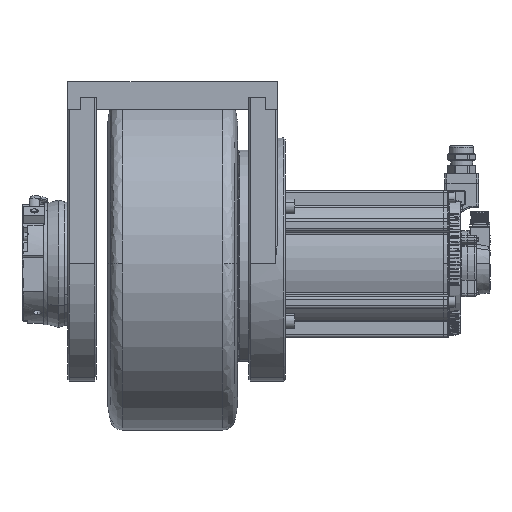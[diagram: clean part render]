
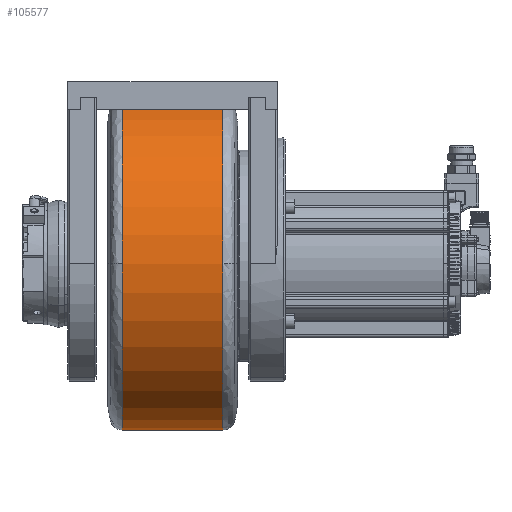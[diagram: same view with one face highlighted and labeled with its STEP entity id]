
A CAD part, front view. The second image highlights one B-rep face of the part: STEP entity #105577.
In plain terms, the highlighted cylindrical face has radius 205 mm (diameter 410 mm), a partial arc.
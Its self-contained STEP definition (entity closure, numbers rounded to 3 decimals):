
#10211 = AXIS2_PLACEMENT_3D ( 'NONE', #14149, #14150, #14158 ) ;
#14149 = CARTESIAN_POINT ( 'NONE',  ( -207.222, 2.82, 43.033 ) ) ;
#14150 = DIRECTION ( 'NONE',  ( 1., 0., 0. ) ) ;
#14158 = DIRECTION ( 'NONE',  ( 0., 0., -1. ) ) ;
#14331 = FACE_OUTER_BOUND ( 'NONE', #72782, .T. ) ;
#14336 = CYLINDRICAL_SURFACE ( 'NONE', #10211, 205. ) ;
#48480 = VERTEX_POINT ( 'NONE', #86662 ) ;
#48690 = VERTEX_POINT ( 'NONE', #88510 ) ;
#48775 = VERTEX_POINT ( 'NONE', #88654 ) ;
#48786 = VERTEX_POINT ( 'NONE', #88672 ) ;
#48854 = VERTEX_POINT ( 'NONE', #88786 ) ;
#60001 = VERTEX_POINT ( 'NONE', #90532 ) ;
#61440 = ORIENTED_EDGE ( 'NONE', *, *, #113606, .F. ) ;
#61441 = ORIENTED_EDGE ( 'NONE', *, *, #113572, .T. ) ;
#61442 = ORIENTED_EDGE ( 'NONE', *, *, #113645, .T. ) ;
#61443 = ORIENTED_EDGE ( 'NONE', *, *, #113613, .T. ) ;
#61444 = ORIENTED_EDGE ( 'NONE', *, *, #113647, .T. ) ;
#61445 = ORIENTED_EDGE ( 'NONE', *, *, #113557, .T. ) ;
#72782 = EDGE_LOOP ( 'NONE', ( #61440, #61441, #61442, #61443, #61444, #61445 ) ) ;
#86662 = CARTESIAN_POINT ( 'NONE',  ( -1.186, 2.82, 248.033 ) ) ;
#88510 = CARTESIAN_POINT ( 'NONE',  ( -125.257, 2.82, 248.033 ) ) ;
#88654 = CARTESIAN_POINT ( 'NONE',  ( -1.186, 2.82, -161.967 ) ) ;
#88672 = CARTESIAN_POINT ( 'NONE',  ( -125.257, -202.18, 43.033 ) ) ;
#88786 = CARTESIAN_POINT ( 'NONE',  ( -125.257, 2.82, -161.967 ) ) ;
#89500 = AXIS2_PLACEMENT_3D ( 'NONE', #110011, #110013, #110015 ) ;
#89514 = AXIS2_PLACEMENT_3D ( 'NONE', #110066, #110068, #110071 ) ;
#89551 = AXIS2_PLACEMENT_3D ( 'NONE', #110280, #110283, #110284 ) ;
#89553 = AXIS2_PLACEMENT_3D ( 'NONE', #110289, #110291, #110294 ) ;
#90532 = CARTESIAN_POINT ( 'NONE',  ( -1.186, -202.18, 43.033 ) ) ;
#94709 = CIRCLE ( 'NONE', #89500, 205. ) ;
#94727 = CIRCLE ( 'NONE', #89514, 205. ) ;
#94757 = LINE ( 'NONE', #110155, #94761 ) ;
#94761 = VECTOR ( 'NONE', #110142, 1000. ) ;
#94763 = LINE ( 'NONE', #110160, #94767 ) ;
#94767 = VECTOR ( 'NONE', #110162, 1000. ) ;
#94795 = CIRCLE ( 'NONE', #89551, 205. ) ;
#94797 = CIRCLE ( 'NONE', #89553, 205. ) ;
#105577 = ADVANCED_FACE ( 'NONE', ( #14331 ), #14336, .T. ) ;
#110011 = CARTESIAN_POINT ( 'NONE',  ( -1.186, 2.82, 43.033 ) ) ;
#110013 = DIRECTION ( 'NONE',  ( -1., 0., 0. ) ) ;
#110015 = DIRECTION ( 'NONE',  ( 0., 0., -1. ) ) ;
#110066 = CARTESIAN_POINT ( 'NONE',  ( -125.257, 2.82, 43.033 ) ) ;
#110068 = DIRECTION ( 'NONE',  ( 1., 0., 0. ) ) ;
#110071 = DIRECTION ( 'NONE',  ( 0., 0., -1. ) ) ;
#110142 = DIRECTION ( 'NONE',  ( 1., 0., 0. ) ) ;
#110155 = CARTESIAN_POINT ( 'NONE',  ( -207.222, 2.82, 248.033 ) ) ;
#110160 = CARTESIAN_POINT ( 'NONE',  ( -207.222, 2.82, -161.967 ) ) ;
#110162 = DIRECTION ( 'NONE',  ( 1., 0., 0. ) ) ;
#110280 = CARTESIAN_POINT ( 'NONE',  ( -125.257, 2.82, 43.033 ) ) ;
#110283 = DIRECTION ( 'NONE',  ( 1., 0., 0. ) ) ;
#110284 = DIRECTION ( 'NONE',  ( 0., 0., -1. ) ) ;
#110289 = CARTESIAN_POINT ( 'NONE',  ( -1.186, 2.82, 43.033 ) ) ;
#110291 = DIRECTION ( 'NONE',  ( -1., 0., 0. ) ) ;
#110294 = DIRECTION ( 'NONE',  ( 0., 0., -1. ) ) ;
#113557 = EDGE_CURVE ( 'NONE', #60001, #48480, #94709, .T. ) ;
#113572 = EDGE_CURVE ( 'NONE', #48690, #48786, #94727, .T. ) ;
#113606 = EDGE_CURVE ( 'NONE', #48690, #48480, #94757, .T. ) ;
#113613 = EDGE_CURVE ( 'NONE', #48854, #48775, #94763, .T. ) ;
#113645 = EDGE_CURVE ( 'NONE', #48786, #48854, #94795, .T. ) ;
#113647 = EDGE_CURVE ( 'NONE', #48775, #60001, #94797, .T. ) ;
